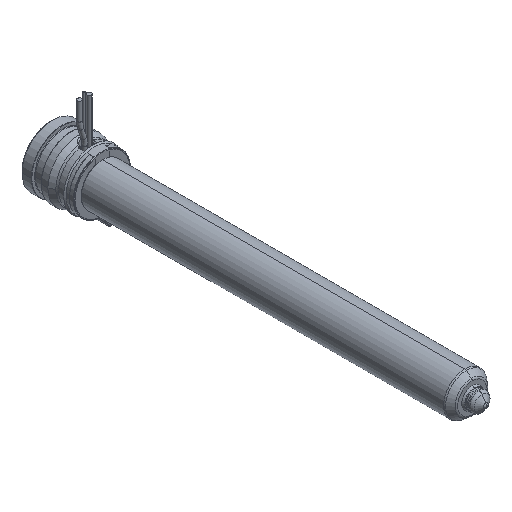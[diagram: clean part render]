
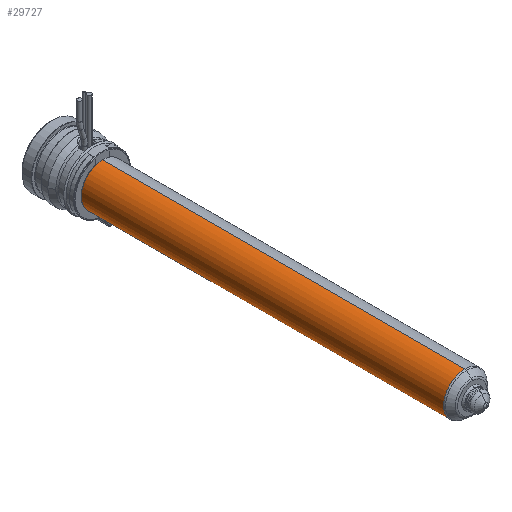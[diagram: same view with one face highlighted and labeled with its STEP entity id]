
A CAD part, isometric view. The second image highlights one B-rep face of the part: STEP entity #29727.
In plain terms, the highlighted cylindrical face has radius 9 mm (diameter 18 mm), a partial arc.
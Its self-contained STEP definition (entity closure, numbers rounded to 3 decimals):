
#29180=CARTESIAN_POINT('',(0.,-175.836,0.));
#29181=DIRECTION('',(0.,-1.,0.));
#29182=DIRECTION('',(0.,0.,1.));
#29183=AXIS2_PLACEMENT_3D('',#29180,#29181,#29182);
#29188=CARTESIAN_POINT('',(0.,-22.,0.));
#29189=DIRECTION('',(0.,-1.,0.));
#29190=DIRECTION('',(0.,0.,1.));
#29191=AXIS2_PLACEMENT_3D('',#29188,#29189,#29190);
#29196=DIRECTION('',(0.,-1.,0.));
#29197=VECTOR('',#29196,153.836);
#29198=CARTESIAN_POINT('',(0.,-22.,9.));
#29199=LINE('',#29198,#29197);
#29211=DIRECTION('',(0.,-1.,0.));
#29212=VECTOR('',#29211,153.836);
#29213=CARTESIAN_POINT('',(0.,-22.,-9.));
#29214=LINE('',#29213,#29212);
#29408=CARTESIAN_POINT('',(0.,-22.,9.));
#29409=CARTESIAN_POINT('',(0.,-175.836,9.));
#29410=VERTEX_POINT('',#29408);
#29411=VERTEX_POINT('',#29409);
#29430=CARTESIAN_POINT('',(0.,-22.,-9.));
#29431=CARTESIAN_POINT('',(0.,-175.836,-9.));
#29432=VERTEX_POINT('',#29430);
#29433=VERTEX_POINT('',#29431);
#29713=CARTESIAN_POINT('',(0.,-9.625,0.));
#29714=DIRECTION('',(0.,-1.,0.));
#29715=DIRECTION('',(0.,0.,1.));
#29716=AXIS2_PLACEMENT_3D('',#29713,#29714,#29715);
#29717=CYLINDRICAL_SURFACE('',#29716,9.);
#29719=ORIENTED_EDGE('',*,*,#29718,.T.);
#29720=ORIENTED_EDGE('',*,*,#29708,.T.);
#29722=ORIENTED_EDGE('',*,*,#29721,.F.);
#29724=ORIENTED_EDGE('',*,*,#29723,.F.);
#29725=EDGE_LOOP('',(#29719,#29720,#29722,#29724));
#29726=FACE_OUTER_BOUND('',#29725,.F.);
#29727=ADVANCED_FACE('',(#29726),#29717,.T.);
#29184=CIRCLE('',#29183,9.);
#29192=CIRCLE('',#29191,9.);
#29708=EDGE_CURVE('',#29411,#29433,#29184,.T.);
#29718=EDGE_CURVE('',#29410,#29411,#29199,.T.);
#29721=EDGE_CURVE('',#29432,#29433,#29214,.T.);
#29723=EDGE_CURVE('',#29410,#29432,#29192,.T.);
